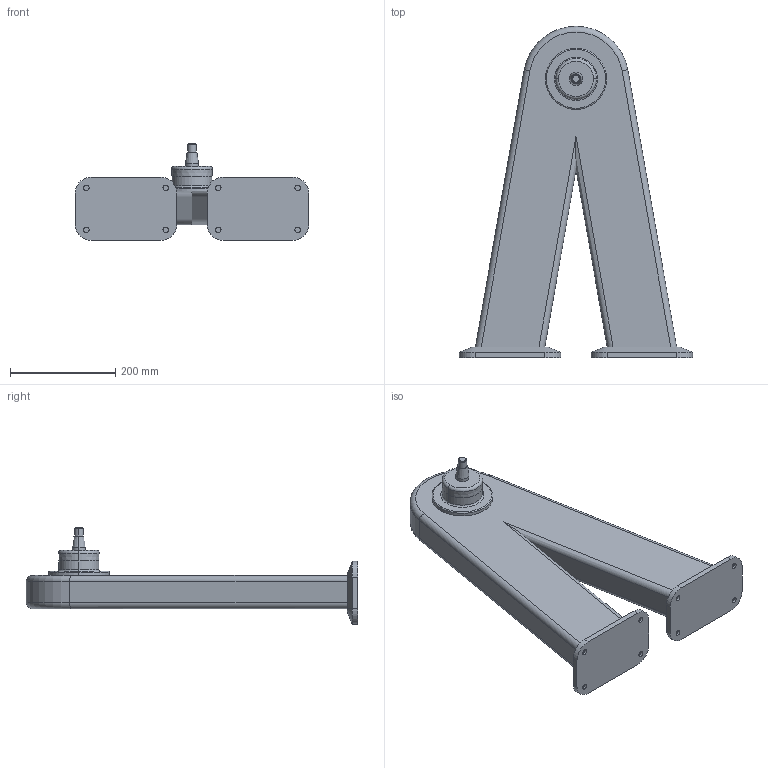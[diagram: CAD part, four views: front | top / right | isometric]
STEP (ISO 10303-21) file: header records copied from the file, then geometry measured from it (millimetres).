
FILE_DESCRIPTION (( 'STEP AP214' ), '1' );
FILE_NAME ('WP850_H530.STEP', '2014-09-08T12:59:40', ( '' ), ( '' ), 'SwSTEP 2.0', 'SolidWorks 2014', '' );
FILE_SCHEMA (( 'AUTOMOTIVE_DESIGN' ));
Length unit declared in the file: millimetre
Products named in the file (1): WP850_H530
Bounding box: 443.93 x 630 x 183.98 mm (x, y, z)
Volume: 10075784.8 mm3; surface area: 501100.1 mm2
Topology: 1 solids, 1 shells, 101 faces, 221 edges, 136 vertices
Faces by surface type: cylinder 41, plane 38, cone 14, torus 8
Entity records: 2795 total; most frequent: DIRECTION 513, CARTESIAN_POINT 489, ORIENTED_EDGE 442, EDGE_CURVE 221, AXIS2_PLACEMENT_3D 200, VERTEX_POINT 136, EDGE_LOOP 115, VECTOR 113
